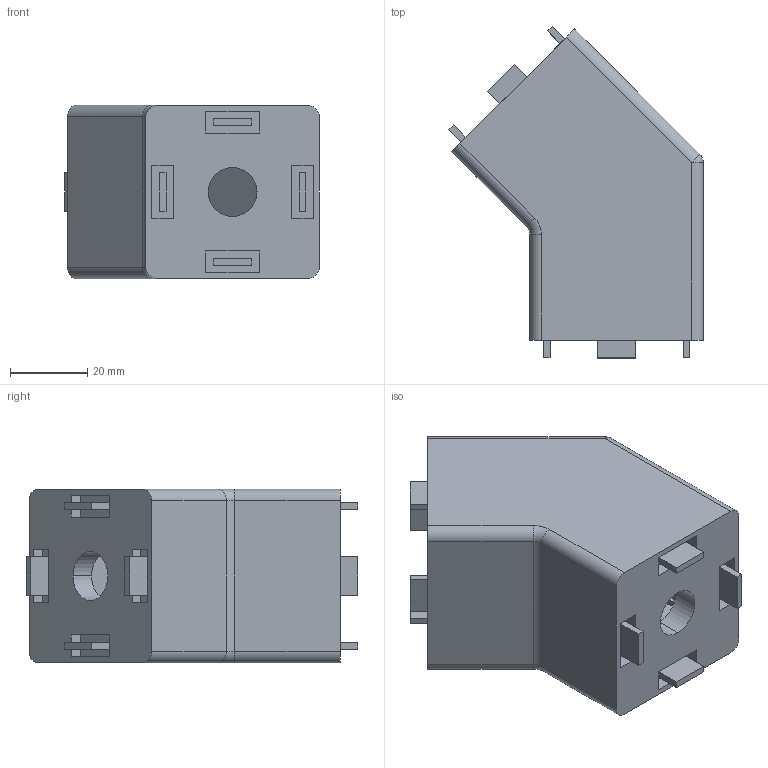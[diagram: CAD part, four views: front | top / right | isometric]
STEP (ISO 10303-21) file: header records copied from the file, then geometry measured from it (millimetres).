
FILE_DESCRIPTION (( 'STEP AP214' ), '1' );
FILE_NAME ('084.305.052.STEP', '2021-02-05T10:49:04', ( '' ), ( '' ), 'SwSTEP 2.0', 'SolidWorks 2018', '' );
FILE_SCHEMA (( 'AUTOMOTIVE_DESIGN' ));
Length unit declared in the file: millimetre
Products named in the file (3): 084.305.052C; 084.305.052; 084.305.052A
Assembly tree (2 placements, depth 2):
  084.305.052
    084.305.052A
    084.305.052C
Bounding box: 66.07 x 86.14 x 45 mm (x, y, z)
Volume: 60665.3 mm3; surface area: 35329.7 mm2
Topology: 2 solids, 2 shells, 206 faces, 536 edges, 354 vertices
Faces by surface type: plane 184, cylinder 18, torus 2, sphere 2
Entity records: 6780 total; most frequent: CARTESIAN_POINT 1101, ORIENTED_EDGE 1072, DIRECTION 998, EDGE_CURVE 536, VECTOR 496, LINE 496, VERTEX_POINT 354, AXIS2_PLACEMENT_3D 251
